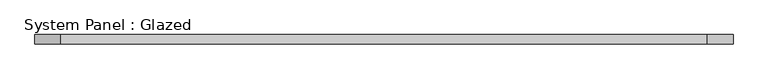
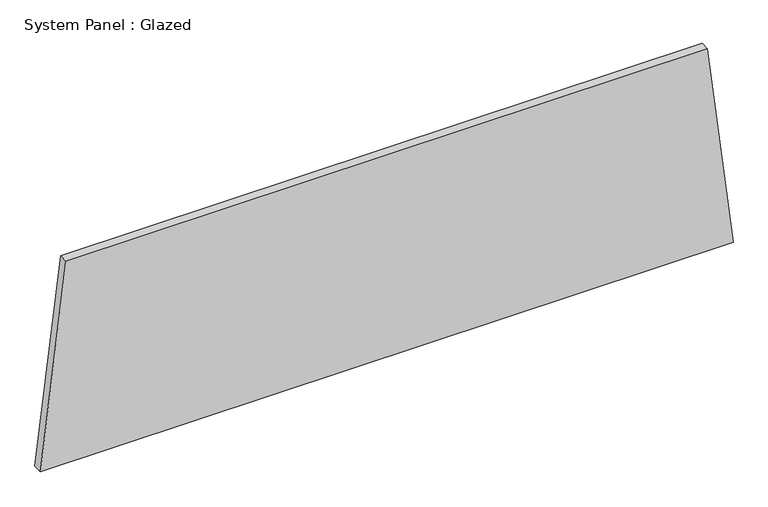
"""IFC4 building model written with IfcOpenShell, lengths in millimetres: plate geometry, System Panel : Glazed."""

from ifc_helpers import new_model, si_unit, frame, origin, place, context, project, spatial, polyline, outline, extrude, source, transform, mapped, element, save


def system_panel_glazed_0de345d1(model_context):
    return source(origin(), model_context, "Body", "SweptSolid", [
        extrude(outline(polyline([(0.0, -940.9057788), (0.0, 940.9057788), (579.8510312, 871.2695002), (579.8510312, -871.2695002), (0.0, -940.9057788)])), frame((0.0, 19.05, 0.0), z_axis=(0.0, 1.0, 0.0), x_axis=(0.0, 0.0, 1.0)), (0.0, 0.0, 1.0), 25.4),
    ])


if __name__ == "__main__":
    model = new_model("IFC4")
    model_context = context("Model", 3, world=origin())
    ifc_project = project(units=[si_unit("LENGTHUNIT", "METRE", prefix="MILLI")], contexts=[model_context])
    site = spatial("IfcSite", under=ifc_project)
    building = spatial("IfcBuilding", under=site)
    placement = place(None, origin())
    system_panel_glazed_shape = system_panel_glazed_0de345d1(model_context)
    element("IfcPlate", 1, ObjectType="System Panel : Glazed", at=placement, inside=building, context=model_context, shape_type="MappedRepresentation", body=[
        mapped(system_panel_glazed_shape, transform((0.0, 0.0, 0.0), x_axis=(1.0, 0.0, 0.0), y_axis=(0.0, 1.0, 0.0), z_axis=(0.0, 0.0, 1.0))),
    ])
    save(model, "model.ifc")
